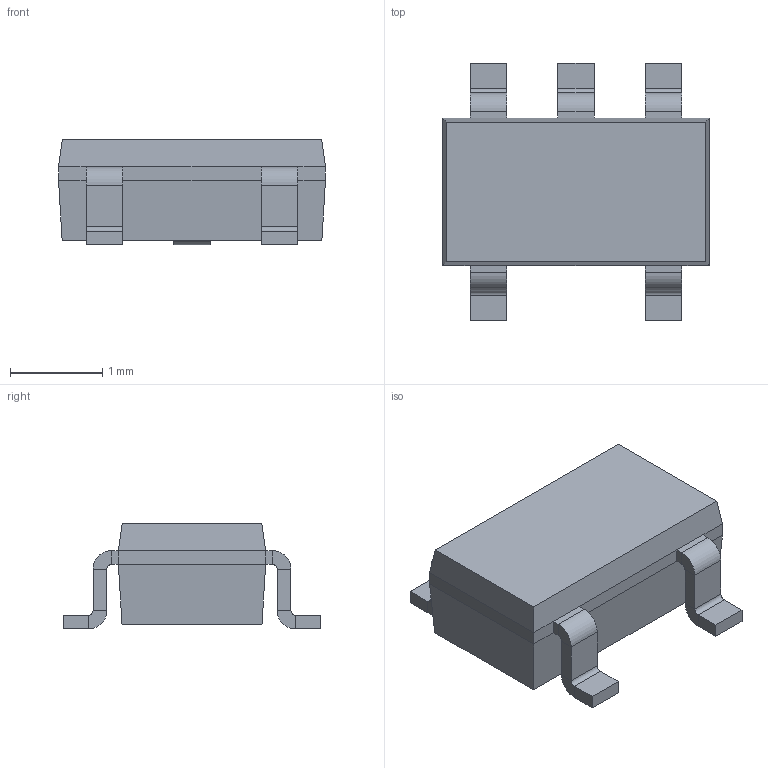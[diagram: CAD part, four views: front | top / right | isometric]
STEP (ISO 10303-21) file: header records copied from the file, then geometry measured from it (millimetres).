
FILE_DESCRIPTION (( 'STEP AP214' ), '1' );
FILE_NAME ('HGPRDT007AŠOŒ`.STEP', '2024-04-08T00:30:24', ( '' ), ( '' ), 'SwSTEP 2.0', 'SolidWorks 2023', '' );
FILE_SCHEMA (( 'AUTOMOTIVE_DESIGN' ));
Length unit declared in the file: millimetre
Products named in the file (1): HGPRDT007A外形
Bounding box: 2.9 x 2.8 x 1.15 mm (x, y, z)
Volume: 5.3 mm3; surface area: 24.9 mm2
Topology: 1 solids, 1 shells, 124 faces, 258 edges, 136 vertices
Faces by surface type: plane 104, cylinder 20
Entity records: 4505 total; most frequent: DIRECTION 548, CARTESIAN_POINT 519, ORIENTED_EDGE 516, EDGE_CURVE 258, LINE 218, VECTOR 218, AXIS2_PLACEMENT_3D 165, VERTEX_POINT 136
